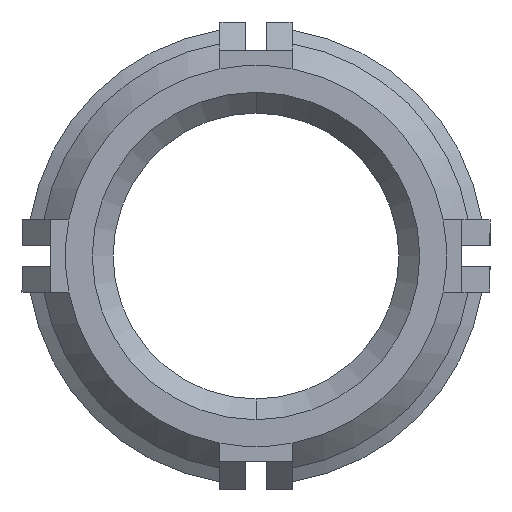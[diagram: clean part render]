
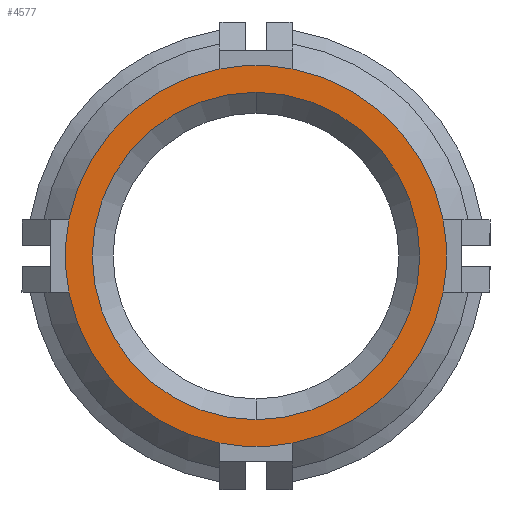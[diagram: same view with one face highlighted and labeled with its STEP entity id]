
A CAD part, front view. The second image highlights one B-rep face of the part: STEP entity #4577.
In plain terms, the highlighted planar face has unit normal (0, -1, 0).
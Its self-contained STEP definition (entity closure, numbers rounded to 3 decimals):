
#19 = EDGE_LOOP ( 'NONE', ( #2017, #5623 ) ) ;
#45 = PLANE ( 'NONE',  #3497 ) ;
#72 = AXIS2_PLACEMENT_3D ( 'NONE', #1537, #2038, #1121 ) ;
#138 = CIRCLE ( 'NONE', #3391, 10.583 ) ;
#221 = CIRCLE ( 'NONE', #2649, 10.583 ) ;
#431 = CIRCLE ( 'NONE', #1731, 10.583 ) ;
#516 = EDGE_CURVE ( 'NONE', #4823, #1294, #5728, .T. ) ;
#601 = CIRCLE ( 'NONE', #3853, 10.583 ) ;
#756 = DIRECTION ( 'NONE',  ( 0., -1., 0. ) ) ;
#847 = DIRECTION ( 'NONE',  ( 0., 0., 1. ) ) ;
#939 = VERTEX_POINT ( 'NONE', #1697 ) ;
#940 = DIRECTION ( 'NONE',  ( 0., -1., 0. ) ) ;
#964 = DIRECTION ( 'NONE',  ( 0., 0., 1. ) ) ;
#1121 = DIRECTION ( 'NONE',  ( 0., 0., 1. ) ) ;
#1157 = CIRCLE ( 'NONE', #3510, 9.092 ) ;
#1188 = EDGE_CURVE ( 'NONE', #1294, #5197, #4160, .T. ) ;
#1189 = ORIENTED_EDGE ( 'NONE', *, *, #4039, .T. ) ;
#1251 = AXIS2_PLACEMENT_3D ( 'NONE', #3091, #4348, #4864 ) ;
#1294 = VERTEX_POINT ( 'NONE', #2480 ) ;
#1306 = ORIENTED_EDGE ( 'NONE', *, *, #2589, .T. ) ;
#1333 = EDGE_CURVE ( 'NONE', #939, #4823, #431, .T. ) ;
#1401 = DIRECTION ( 'NONE',  ( 0., -1., 0. ) ) ;
#1470 = EDGE_CURVE ( 'NONE', #4463, #2797, #1157, .T. ) ;
#1518 = CIRCLE ( 'NONE', #5525, 9.092 ) ;
#1537 = CARTESIAN_POINT ( 'NONE',  ( 0., -22.098, 0. ) ) ;
#1605 = DIRECTION ( 'NONE',  ( 0., -1., 0. ) ) ;
#1677 = DIRECTION ( 'NONE',  ( 0., 0., 1. ) ) ;
#1697 = CARTESIAN_POINT ( 'NONE',  ( 2., -22.098, -10.392 ) ) ;
#1731 = AXIS2_PLACEMENT_3D ( 'NONE', #3908, #756, #4314 ) ;
#1944 = EDGE_CURVE ( 'NONE', #2797, #4463, #1518, .T. ) ;
#2017 = ORIENTED_EDGE ( 'NONE', *, *, #1470, .T. ) ;
#2038 = DIRECTION ( 'NONE',  ( 0., -1., 0. ) ) ;
#2080 = DIRECTION ( 'NONE',  ( 0., 1., 0. ) ) ;
#2101 = AXIS2_PLACEMENT_3D ( 'NONE', #3337, #1605, #5580 ) ;
#2248 = CARTESIAN_POINT ( 'NONE',  ( 0., -22.098, 0. ) ) ;
#2342 = EDGE_LOOP ( 'NONE', ( #5492, #1306, #2682, #5111, #5325, #4579, #3478, #1189 ) ) ;
#2417 = VERTEX_POINT ( 'NONE', #4109 ) ;
#2418 = CARTESIAN_POINT ( 'NONE',  ( 0., -22.098, 0. ) ) ;
#2434 = CARTESIAN_POINT ( 'NONE',  ( -2., -22.098, 10.392 ) ) ;
#2480 = CARTESIAN_POINT ( 'NONE',  ( 10.392, -22.098, 2. ) ) ;
#2510 = DIRECTION ( 'NONE',  ( 0., -1., 0. ) ) ;
#2540 = DIRECTION ( 'NONE',  ( 1., 0., 0. ) ) ;
#2558 = AXIS2_PLACEMENT_3D ( 'NONE', #2681, #3112, #3146 ) ;
#2589 = EDGE_CURVE ( 'NONE', #4339, #2947, #138, .T. ) ;
#2626 = EDGE_CURVE ( 'NONE', #5197, #4457, #601, .T. ) ;
#2649 = AXIS2_PLACEMENT_3D ( 'NONE', #5383, #940, #2728 ) ;
#2668 = CIRCLE ( 'NONE', #2101, 10.583 ) ;
#2681 = CARTESIAN_POINT ( 'NONE',  ( 0., -22.098, 0. ) ) ;
#2682 = ORIENTED_EDGE ( 'NONE', *, *, #3664, .T. ) ;
#2728 = DIRECTION ( 'NONE',  ( 0., 0., 1. ) ) ;
#2797 = VERTEX_POINT ( 'NONE', #3451 ) ;
#2947 = VERTEX_POINT ( 'NONE', #3705 ) ;
#3044 = FACE_OUTER_BOUND ( 'NONE', #2342, .T. ) ;
#3061 = CARTESIAN_POINT ( 'NONE',  ( 10.392, -22.098, -2. ) ) ;
#3091 = CARTESIAN_POINT ( 'NONE',  ( 0., -22.098, 0. ) ) ;
#3112 = DIRECTION ( 'NONE',  ( 0., -1., 0. ) ) ;
#3146 = DIRECTION ( 'NONE',  ( 0., 0., -1. ) ) ;
#3191 = EDGE_CURVE ( 'NONE', #2417, #4339, #5266, .T. ) ;
#3337 = CARTESIAN_POINT ( 'NONE',  ( 0., -22.098, 0. ) ) ;
#3391 = AXIS2_PLACEMENT_3D ( 'NONE', #5407, #1401, #964 ) ;
#3451 = CARTESIAN_POINT ( 'NONE',  ( 0., -22.098, 9.092 ) ) ;
#3478 = ORIENTED_EDGE ( 'NONE', *, *, #2626, .T. ) ;
#3497 = AXIS2_PLACEMENT_3D ( 'NONE', #2248, #4848, #847 ) ;
#3510 = AXIS2_PLACEMENT_3D ( 'NONE', #5108, #2080, #1677 ) ;
#3604 = CARTESIAN_POINT ( 'NONE',  ( -10.392, -22.098, -2. ) ) ;
#3664 = EDGE_CURVE ( 'NONE', #2947, #939, #2668, .T. ) ;
#3700 = DIRECTION ( 'NONE',  ( 0., 1., 0. ) ) ;
#3705 = CARTESIAN_POINT ( 'NONE',  ( -2., -22.098, -10.392 ) ) ;
#3853 = AXIS2_PLACEMENT_3D ( 'NONE', #2418, #2510, #2540 ) ;
#3908 = CARTESIAN_POINT ( 'NONE',  ( 0., -22.098, 0. ) ) ;
#4039 = EDGE_CURVE ( 'NONE', #4457, #2417, #221, .T. ) ;
#4109 = CARTESIAN_POINT ( 'NONE',  ( -10.392, -22.098, 2. ) ) ;
#4160 = CIRCLE ( 'NONE', #72, 10.583 ) ;
#4169 = CARTESIAN_POINT ( 'NONE',  ( 2., -22.098, 10.392 ) ) ;
#4314 = DIRECTION ( 'NONE',  ( 0., 0., 1. ) ) ;
#4339 = VERTEX_POINT ( 'NONE', #3604 ) ;
#4348 = DIRECTION ( 'NONE',  ( 0., -1., 0. ) ) ;
#4457 = VERTEX_POINT ( 'NONE', #2434 ) ;
#4463 = VERTEX_POINT ( 'NONE', #4772 ) ;
#4577 = ADVANCED_FACE ( 'NONE', ( #5694, #3044 ), #45, .F. ) ;
#4579 = ORIENTED_EDGE ( 'NONE', *, *, #1188, .T. ) ;
#4596 = CARTESIAN_POINT ( 'NONE',  ( 0., -22.098, 0. ) ) ;
#4772 = CARTESIAN_POINT ( 'NONE',  ( 0., -22.098, -9.092 ) ) ;
#4823 = VERTEX_POINT ( 'NONE', #3061 ) ;
#4848 = DIRECTION ( 'NONE',  ( 0., 1., 0. ) ) ;
#4864 = DIRECTION ( 'NONE',  ( 0., 0., 1. ) ) ;
#4926 = DIRECTION ( 'NONE',  ( 0., 0., 1. ) ) ;
#5108 = CARTESIAN_POINT ( 'NONE',  ( 0., -22.098, 0. ) ) ;
#5111 = ORIENTED_EDGE ( 'NONE', *, *, #1333, .T. ) ;
#5197 = VERTEX_POINT ( 'NONE', #4169 ) ;
#5266 = CIRCLE ( 'NONE', #1251, 10.583 ) ;
#5325 = ORIENTED_EDGE ( 'NONE', *, *, #516, .T. ) ;
#5383 = CARTESIAN_POINT ( 'NONE',  ( 0., -22.098, 0. ) ) ;
#5407 = CARTESIAN_POINT ( 'NONE',  ( 0., -22.098, 0. ) ) ;
#5492 = ORIENTED_EDGE ( 'NONE', *, *, #3191, .T. ) ;
#5525 = AXIS2_PLACEMENT_3D ( 'NONE', #4596, #3700, #4926 ) ;
#5580 = DIRECTION ( 'NONE',  ( -1., 0., 0. ) ) ;
#5623 = ORIENTED_EDGE ( 'NONE', *, *, #1944, .T. ) ;
#5694 = FACE_BOUND ( 'NONE', #19, .T. ) ;
#5728 = CIRCLE ( 'NONE', #2558, 10.583 ) ;
